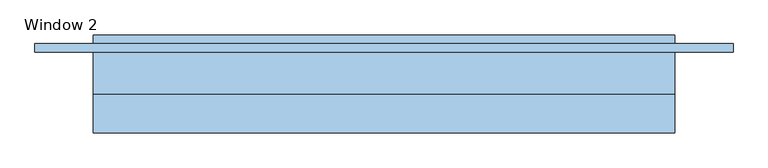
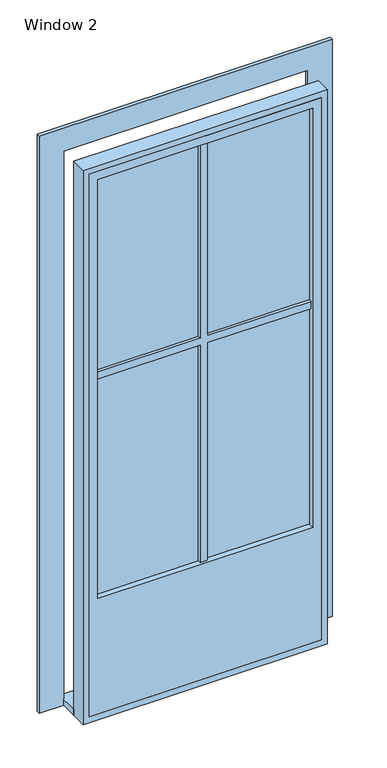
"""IFC4 building model written with IfcOpenShell, lengths in millimetres: window geometry, Window 2 : 1000/2400."""

from ifc_helpers import new_model, si_unit, frame, origin, origin_with_axes, place, context, project, spatial, polyline, outline, extrude, source, transform, mapped, element, save


def window_2_40adfcd9(model_context):
    return source(origin(), model_context, "Body", "SweptSolid", [
        extrude(outline(polyline([(500.0, 26.9623738), (-500.0, 26.9623738), (-500.0, 130.0), (500.0, 130.0), (500.0, 26.9623738)])), origin_with_axes(), (0.0, 0.0, 1.0), 25.0),
        extrude(outline(polyline([(2375.0, -475.0), (25.0, -475.0), (25.0, 475.0), (2375.0, 475.0), (2375.0, -475.0)]), holes=[polyline([(2340.0, -440.0), (2340.0, 440.0), (525.0, 440.0), (525.0, -440.0), (2340.0, -440.0)])]), frame((0.0, -39.0188131, 0.0), z_axis=(0.0, 1.0, 0.0), x_axis=(0.0, 0.0, 1.0)), (0.0, 0.0, 1.0), 50.5),
        extrude(outline(polyline([(0.0, -500.0), (0.0, 500.0), (2400.0, 500.0), (2400.0, -500.0), (0.0, -500.0)]), holes=[polyline([(25.0, -475.0), (2375.0, -475.0), (2375.0, 475.0), (25.0, 475.0), (25.0, -475.0)])]), frame((0.0, -39.0188131, 0.0), z_axis=(0.0, 1.0, 0.0), x_axis=(0.0, 0.0, 1.0)), (0.0, 0.0, 1.0), 65.9811869),
        extrude(outline(polyline([(2400.0, -500.0), (2400.0, 500.0), (0.0, 500.0), (0.0, 600.0), (2500.0, 600.0), (2500.0, -600.0), (0.0, -600.0), (0.0, -500.0), (2400.0, -500.0)])), frame((0.0, 100.0, 0.0), z_axis=(0.0, 1.0, 0.0), x_axis=(0.0, 0.0, 1.0)), (0.0, 0.0, 1.0), 15.0),
        extrude(outline(polyline([(1497.5, 440.0), (1497.5, 15.0), (2340.0, 15.0), (2340.0, -15.0), (1497.5, -15.0), (1497.5, -440.0), (1467.5, -440.0), (1467.5, -15.0), (525.0, -15.0), (525.0, 15.0), (1467.5, 15.0), (1467.5, 440.0), (1497.5, 440.0)])), frame((0.0, -28.5188131, 0.0), z_axis=(0.0, 1.0, 0.0), x_axis=(0.0, 0.0, 1.0)), (0.0, 0.0, 1.0), 20.0),
        extrude(outline(polyline([(440.0, -15.5188131), (-440.0, -15.5188131), (-440.0, -13.5188131), (440.0, -13.5188131), (440.0, -15.5188131)])), frame((0.0, 0.0, 525.0), z_axis=(0.0, 0.0, 1.0), x_axis=(1.0, 0.0, 0.0)), (0.0, 0.0, 1.0), 1815.0),
    ])


if __name__ == "__main__":
    model = new_model("IFC4")
    model_context = context("Model", 3, world=origin())
    ifc_project = project(units=[si_unit("LENGTHUNIT", "METRE", prefix="MILLI")], contexts=[model_context])
    site = spatial("IfcSite", under=ifc_project)
    building = spatial("IfcBuilding", under=site)
    placement = place(None, origin())
    window_2_shape = window_2_40adfcd9(model_context)
    element("IfcWindow", 1, ObjectType="Window 2 : 1000/2400", at=placement, inside=building, context=model_context, shape_type="MappedRepresentation", body=[
        mapped(window_2_shape, transform((0.0, 0.0, 0.0), x_axis=(1.0, 0.0, 0.0), y_axis=(0.0, 1.0, 0.0), z_axis=(0.0, 0.0, 1.0))),
    ])
    save(model, "model.ifc")
